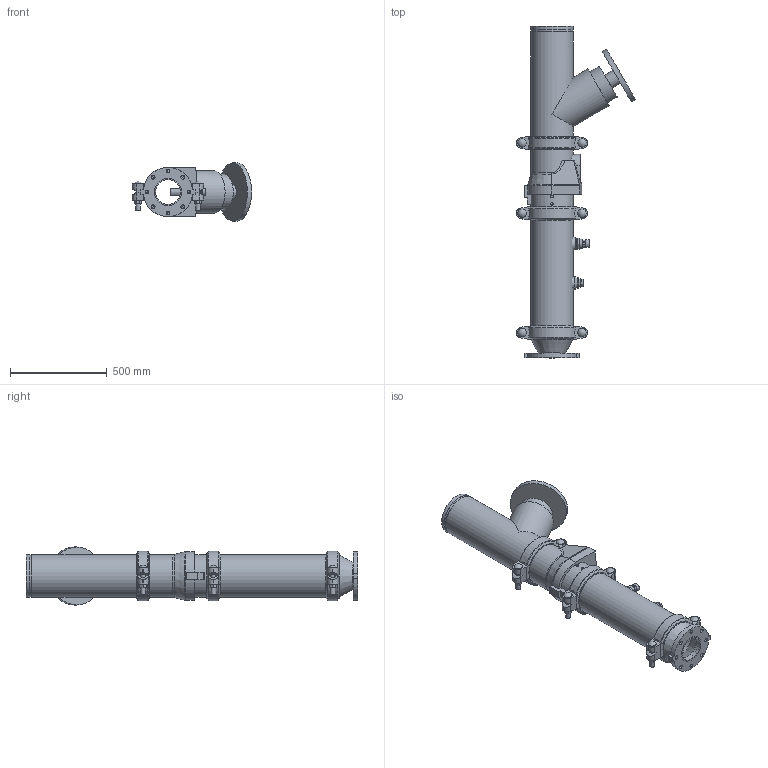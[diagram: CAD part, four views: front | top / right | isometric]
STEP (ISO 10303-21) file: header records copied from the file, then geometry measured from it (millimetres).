
FILE_DESCRIPTION(/* description */ ('VIC DVI PUMP DROP VERT S/383 (OGSxFLG) (S/924-0.75)','CAx-IF Rec.Pracs.---Representation and Presentation of Product Manufacturing Information (PMI)---4.0---2014-10-13'),/* implementation_level */ '2;1');
FILE_NAME(/* name */ 'C:\Users\Public\Documents\Victaulic.Temp\A849\Victaulic_IPS_Vertical DVI_CL 150_Series 383 (OGSxFLG)_924 (0.75)_08.0x05.0 (200x125).stp',/* time_stamp */ '2022-07-25T11:41:20+02:00',/* author */ ('Vjadhav'),/* organization */ ('Victaulic'),/* preprocessor_version */ 'ST-DEVELOPER v18',/* originating_system */ 'Autodesk Inventor 2020',/* authorisation */ '');
FILE_SCHEMA (('AP242_MANAGED_MODEL_BASED_3D_ENGINEERING_MIM_LF { 1 0 10303 442 1 1 4 }'));
Length unit declared in the file: inch
Products named in the file (9): 383_924 (0.75)-08.0x05.0; 741-05.0; 050-08.0x05.0; Pipe-08.0; 177N-08.0; 789-08.0; 779-08.0; 924-04.0x0.75; 923-04.0x0.75
Assembly tree (10 placements, depth 2):
  383_924 (0.75)-08.0x05.0
    741-05.0
    050-08.0x05.0
    177N-08.0  x3
    Pipe-08.0
    789-08.0
    779-08.0
    924-04.0x0.75
    923-04.0x0.75
Bounding box: 615.44 x 1714.5 x 299.97 mm (x, y, z)
Volume: 27254206.2 mm3; surface area: 3442117.4 mm2
Topology: 10 solids, 10 shells, 522 faces, 1377 edges, 925 vertices
Faces by surface type: plane 301, cylinder 176, cone 19, torus 18, sphere 6, bspline 2
Full cylindrical faces by diameter (mm): 13.716 x4, 19.05 x8, 23.774 x6, 26.67 x2, 38.608 x1, 42.85 x6, 45.974 x4, 55.626 x2, 76.2 x1, 128.194 x1, 137.033 x1, 141.3 x3, 183.515 x1, 202.717 x4, 206.375 x3, 214.401 x7, 219.075 x19, 299.974 x1
Entity records: 11670 total; most frequent: CARTESIAN_POINT 2380, DIRECTION 1909, ORIENTED_EDGE 1734, EDGE_CURVE 867, AXIS2_PLACEMENT_3D 732, VERTEX_POINT 589, LINE 445, VECTOR 445
